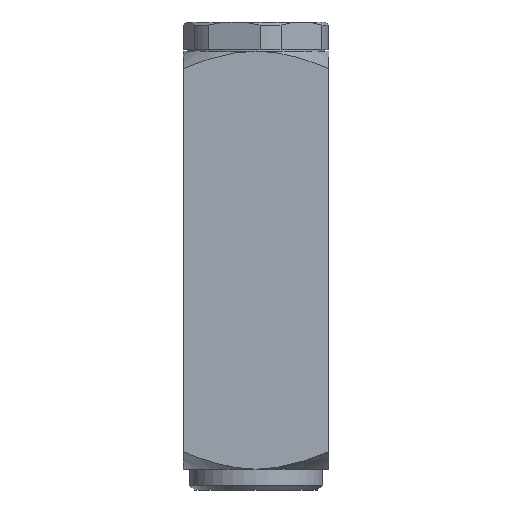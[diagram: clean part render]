
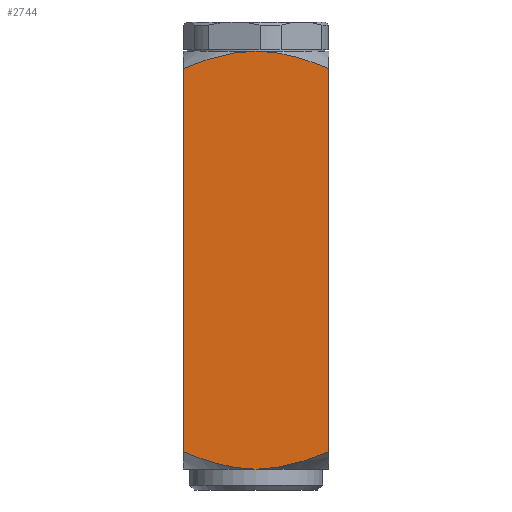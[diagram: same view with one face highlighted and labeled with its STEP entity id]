
A CAD part, front view. The second image highlights one B-rep face of the part: STEP entity #2744.
In plain terms, the highlighted planar face has unit normal (0, -1, 0).
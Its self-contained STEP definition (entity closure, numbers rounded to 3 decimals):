
#142 = CARTESIAN_POINT ( 'NONE',  ( -6.004, -17.5, 49.704 ) ) ;
#403 = CARTESIAN_POINT ( 'NONE',  ( -3.032, -17.5, 50.133 ) ) ;
#534 = CARTESIAN_POINT ( 'NONE',  ( -7.471, -17.5, 49.393 ) ) ;
#607 = CARTESIAN_POINT ( 'NONE',  ( -11.819, -17.5, 48.179 ) ) ;
#654 = CARTESIAN_POINT ( 'NONE',  ( -10.379, -17.5, 48.631 ) ) ;
#697 = CARTESIAN_POINT ( 'NONE',  ( -14.682, -17.5, 47.182 ) ) ;
#781 = CARTESIAN_POINT ( 'NONE',  ( -16.099, -17.5, 46.637 ) ) ;
#963 = CARTESIAN_POINT ( 'NONE',  ( -17.5, -17.5, 46.065 ) ) ;
#1479 = ORIENTED_EDGE ( 'NONE', *, *, #21472, .T. ) ;
#2744 = ADVANCED_FACE ( 'NONE', ( #29015 ), #17809, .T. ) ;
#3462 = LINE ( 'NONE', #37164, #26711 ) ;
#3519 = VERTEX_POINT ( 'NONE', #13854 ) ;
#3957 = CARTESIAN_POINT ( 'NONE',  ( -17.5, -17.5, -50.25 ) ) ;
#4554 = EDGE_CURVE ( 'NONE', #36594, #17613, #12083, .T. ) ;
#6413 = DIRECTION ( 'NONE',  ( 0., 0., 1. ) ) ;
#6881 = B_SPLINE_CURVE_WITH_KNOTS ( 'NONE', 3,
 ( #26957, #26499, #25442, #27193, #27520, #27527, #27477, #27595, #28097, #28465, #28638, #29149, #29182, #29449, #30364, #30488 ),
 .UNSPECIFIED., .F., .F.,
 ( 4, 2, 2, 2, 2, 2, 2, 4 ),
 ( 0.038, 0.039, 0.041, 0.043, 0.047, 0.052, 0.054, 0.056 ),
 .UNSPECIFIED. ) ;
#7847 = EDGE_CURVE ( 'NONE', #29309, #36594, #6881, .T. ) ;
#8148 = CARTESIAN_POINT ( 'NONE',  ( -16.099, -17.5, -46.637 ) ) ;
#8385 = CARTESIAN_POINT ( 'NONE',  ( 17.5, -17.5, -50.25 ) ) ;
#8611 = CARTESIAN_POINT ( 'NONE',  ( -17.5, -17.5, -46.065 ) ) ;
#8798 = CARTESIAN_POINT ( 'NONE',  ( -14.682, -17.5, -47.182 ) ) ;
#8838 = CARTESIAN_POINT ( 'NONE',  ( -11.819, -17.5, -48.179 ) ) ;
#8885 = CARTESIAN_POINT ( 'NONE',  ( -10.379, -17.5, -48.631 ) ) ;
#8915 = CARTESIAN_POINT ( 'NONE',  ( -7.471, -17.5, -49.393 ) ) ;
#8921 = CARTESIAN_POINT ( 'NONE',  ( -6.004, -17.5, -49.704 ) ) ;
#8963 = CARTESIAN_POINT ( 'NONE',  ( -3.032, -17.5, -50.133 ) ) ;
#8970 = CARTESIAN_POINT ( 'NONE',  ( -1.527, -17.5, -50.25 ) ) ;
#9008 = CARTESIAN_POINT ( 'NONE',  ( 0., -17.5, -50.25 ) ) ;
#10137 = VERTEX_POINT ( 'NONE', #35761 ) ;
#11129 = VECTOR ( 'NONE', #6413, 1000. ) ;
#12083 = LINE ( 'NONE', #8385, #11129 ) ;
#12099 = ORIENTED_EDGE ( 'NONE', *, *, #20300, .T. ) ;
#13456 = ORIENTED_EDGE ( 'NONE', *, *, #28559, .T. ) ;
#13737 = ORIENTED_EDGE ( 'NONE', *, *, #4554, .T. ) ;
#13854 = CARTESIAN_POINT ( 'NONE',  ( -17.5, -17.5, -46.065 ) ) ;
#14443 = B_SPLINE_CURVE_WITH_KNOTS ( 'NONE', 3,
 ( #28395, #35425, #403, #142, #534, #654, #607, #697, #781, #963 ),
 .UNSPECIFIED., .F., .F.,
 ( 4, 2, 2, 2, 4 ),
 ( 0.071, 0.075, 0.08, 0.084, 0.089 ),
 .UNSPECIFIED. ) ;
#14781 = CARTESIAN_POINT ( 'NONE',  ( 17.5, -17.5, 46.065 ) ) ;
#14798 = CARTESIAN_POINT ( 'NONE',  ( 0., -17.5, 50.25 ) ) ;
#14875 = CARTESIAN_POINT ( 'NONE',  ( 0.38, -17.5, 50.25 ) ) ;
#15038 = CARTESIAN_POINT ( 'NONE',  ( 0.763, -17.5, 50.243 ) ) ;
#15164 = CARTESIAN_POINT ( 'NONE',  ( 1.524, -17.5, 50.214 ) ) ;
#15650 = CARTESIAN_POINT ( 'NONE',  ( 1.903, -17.5, 50.193 ) ) ;
#15770 = CARTESIAN_POINT ( 'NONE',  ( 3.036, -17.5, 50.108 ) ) ;
#15793 = ORIENTED_EDGE ( 'NONE', *, *, #19554, .F. ) ;
#15897 = CARTESIAN_POINT ( 'NONE',  ( 3.786, -17.5, 50.025 ) ) ;
#16025 = CARTESIAN_POINT ( 'NONE',  ( 6.019, -17.5, 49.702 ) ) ;
#16137 = CARTESIAN_POINT ( 'NONE',  ( 7.487, -17.5, 49.39 ) ) ;
#16262 = CARTESIAN_POINT ( 'NONE',  ( 10.393, -17.5, 48.626 ) ) ;
#16398 = CARTESIAN_POINT ( 'NONE',  ( 11.832, -17.5, 48.175 ) ) ;
#16532 = CARTESIAN_POINT ( 'NONE',  ( 13.974, -17.5, 47.428 ) ) ;
#16650 = CARTESIAN_POINT ( 'NONE',  ( 14.686, -17.5, 47.167 ) ) ;
#16905 = CARTESIAN_POINT ( 'NONE',  ( 16.099, -17.5, 46.628 ) ) ;
#17613 = VERTEX_POINT ( 'NONE', #14781 ) ;
#17639 = CARTESIAN_POINT ( 'NONE',  ( 17.5, -17.5, 46.065 ) ) ;
#17775 = CARTESIAN_POINT ( 'NONE',  ( 16.801, -17.5, 46.35 ) ) ;
#17809 = PLANE ( 'NONE',  #18472 ) ;
#18472 = AXIS2_PLACEMENT_3D ( 'NONE', #3957, #29290, #19191 ) ;
#19099 = ORIENTED_EDGE ( 'NONE', *, *, #7847, .T. ) ;
#19191 = DIRECTION ( 'NONE',  ( 0., 0., -1. ) ) ;
#19385 = CARTESIAN_POINT ( 'NONE',  ( 17.5, -17.5, -46.065 ) ) ;
#19554 = EDGE_CURVE ( 'NONE', #3519, #10137, #3462, .T. ) ;
#20300 = EDGE_CURVE ( 'NONE', #3519, #29309, #25343, .T. ) ;
#21472 = EDGE_CURVE ( 'NONE', #17613, #26683, #21637, .T. ) ;
#21637 = B_SPLINE_CURVE_WITH_KNOTS ( 'NONE', 3,
 ( #17639, #17775, #16905, #16650, #16532, #16398, #16262, #16137, #16025, #15897, #15770, #15650, #15164, #15038, #14875, #14798 ),
 .UNSPECIFIED., .F., .F.,
 ( 4, 2, 2, 2, 2, 2, 2, 4 ),
 ( 0.053, 0.055, 0.057, 0.062, 0.066, 0.068, 0.07, 0.071 ),
 .UNSPECIFIED. ) ;
#25343 = B_SPLINE_CURVE_WITH_KNOTS ( 'NONE', 3,
 ( #8611, #8148, #8798, #8838, #8885, #8915, #8921, #8963, #8970, #9008 ),
 .UNSPECIFIED., .F., .F.,
 ( 4, 2, 2, 2, 4 ),
 ( 0.02, 0.025, 0.029, 0.034, 0.038 ),
 .UNSPECIFIED. ) ;
#25442 = CARTESIAN_POINT ( 'NONE',  ( 0.763, -17.5, -50.243 ) ) ;
#26499 = CARTESIAN_POINT ( 'NONE',  ( 0.38, -17.5, -50.25 ) ) ;
#26683 = VERTEX_POINT ( 'NONE', #36392 ) ;
#26711 = VECTOR ( 'NONE', #37325, 1000. ) ;
#26957 = CARTESIAN_POINT ( 'NONE',  ( 0., -17.5, -50.25 ) ) ;
#27193 = CARTESIAN_POINT ( 'NONE',  ( 1.524, -17.5, -50.214 ) ) ;
#27477 = CARTESIAN_POINT ( 'NONE',  ( 3.786, -17.5, -50.025 ) ) ;
#27520 = CARTESIAN_POINT ( 'NONE',  ( 1.903, -17.5, -50.193 ) ) ;
#27527 = CARTESIAN_POINT ( 'NONE',  ( 3.036, -17.5, -50.108 ) ) ;
#27595 = CARTESIAN_POINT ( 'NONE',  ( 6.019, -17.5, -49.702 ) ) ;
#28097 = CARTESIAN_POINT ( 'NONE',  ( 7.487, -17.5, -49.39 ) ) ;
#28395 = CARTESIAN_POINT ( 'NONE',  ( 0., -17.5, 50.25 ) ) ;
#28465 = CARTESIAN_POINT ( 'NONE',  ( 10.393, -17.5, -48.626 ) ) ;
#28559 = EDGE_CURVE ( 'NONE', #26683, #10137, #14443, .T. ) ;
#28638 = CARTESIAN_POINT ( 'NONE',  ( 11.832, -17.5, -48.175 ) ) ;
#29015 = FACE_OUTER_BOUND ( 'NONE', #31121, .T. ) ;
#29149 = CARTESIAN_POINT ( 'NONE',  ( 13.974, -17.5, -47.428 ) ) ;
#29182 = CARTESIAN_POINT ( 'NONE',  ( 14.686, -17.5, -47.167 ) ) ;
#29290 = DIRECTION ( 'NONE',  ( 0., -1., 0. ) ) ;
#29309 = VERTEX_POINT ( 'NONE', #34747 ) ;
#29449 = CARTESIAN_POINT ( 'NONE',  ( 16.099, -17.5, -46.628 ) ) ;
#30364 = CARTESIAN_POINT ( 'NONE',  ( 16.801, -17.5, -46.35 ) ) ;
#30488 = CARTESIAN_POINT ( 'NONE',  ( 17.5, -17.5, -46.065 ) ) ;
#31121 = EDGE_LOOP ( 'NONE', ( #15793, #12099, #19099, #13737, #1479, #13456 ) ) ;
#34747 = CARTESIAN_POINT ( 'NONE',  ( 0., -17.5, -50.25 ) ) ;
#35425 = CARTESIAN_POINT ( 'NONE',  ( -1.527, -17.5, 50.25 ) ) ;
#35761 = CARTESIAN_POINT ( 'NONE',  ( -17.5, -17.5, 46.065 ) ) ;
#36392 = CARTESIAN_POINT ( 'NONE',  ( 0., -17.5, 50.25 ) ) ;
#36594 = VERTEX_POINT ( 'NONE', #19385 ) ;
#37164 = CARTESIAN_POINT ( 'NONE',  ( -17.5, -17.5, -50.25 ) ) ;
#37325 = DIRECTION ( 'NONE',  ( 0., 0., 1. ) ) ;
